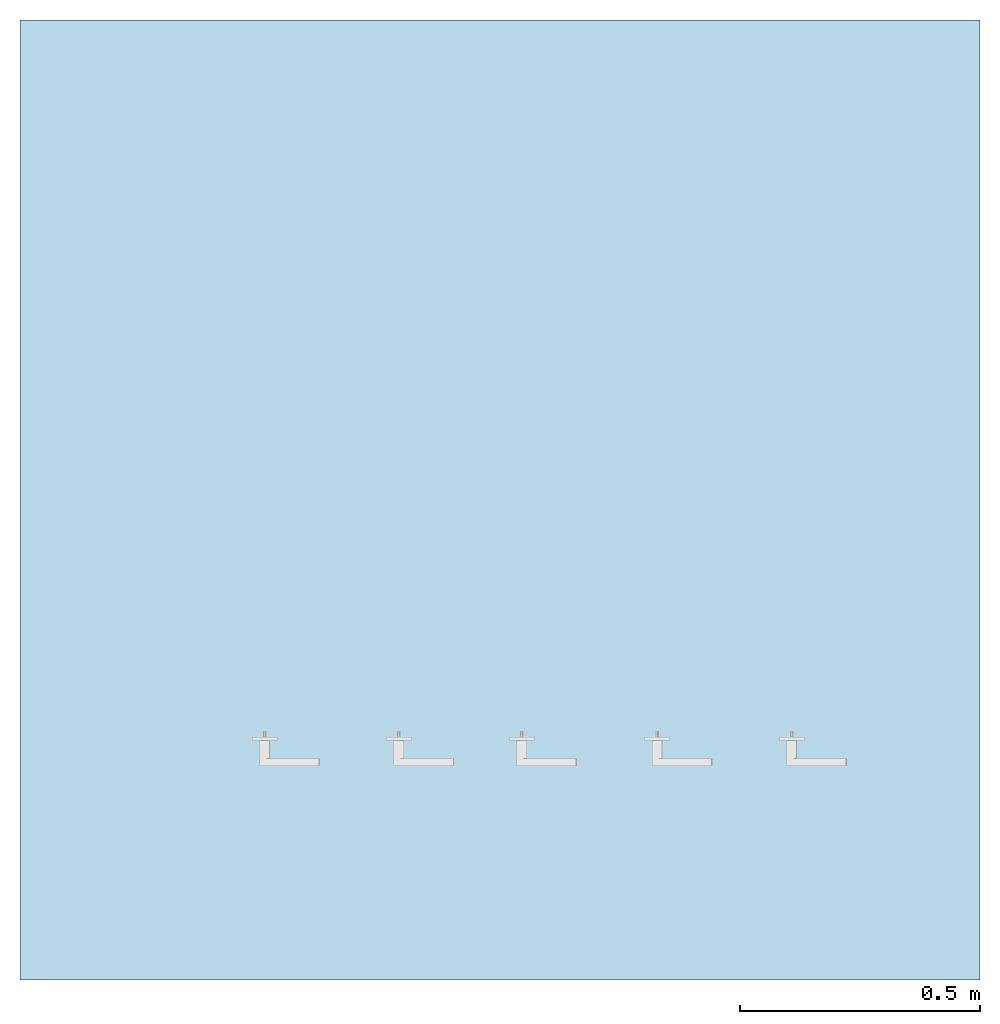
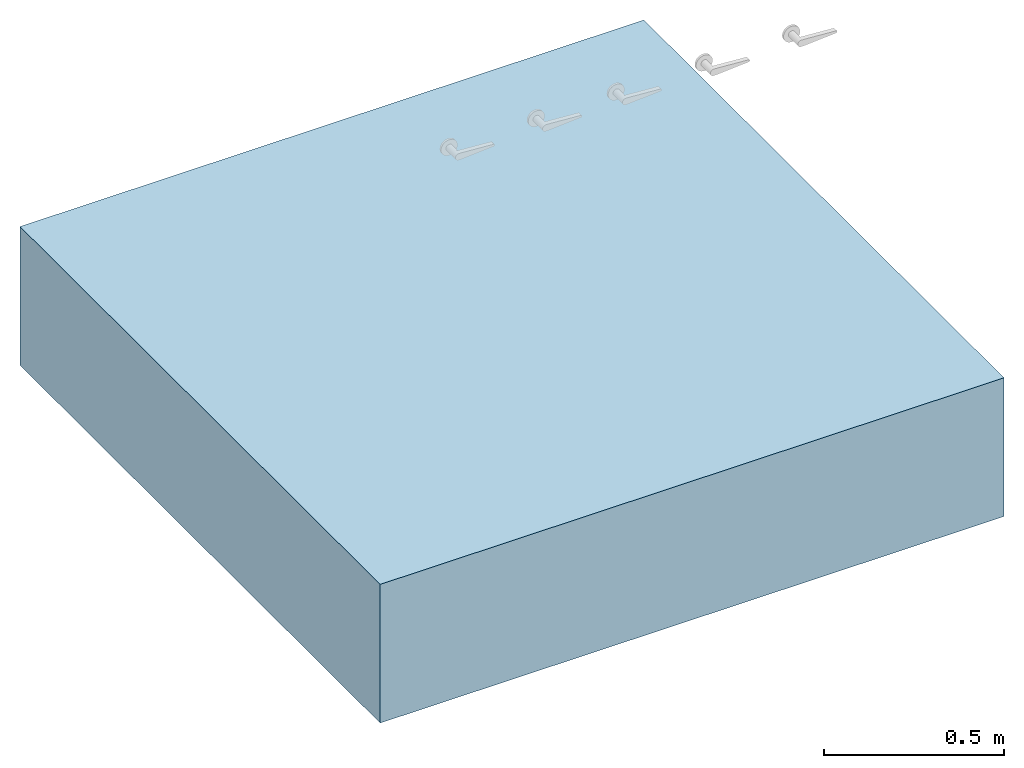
# One storey, part 1 of 2: 1 slab.
"""IFC2X3 building model written with IfcOpenShell, lengths in millimetres."""

from ifc_helpers import new_model, entity, si_unit, converted_unit, derived_unit, direction, frame, origin, origin_2d_with_axis, place, context, subcontext, project, spatial, rectangle, extrude, material, layer, layer_set, layer_usage, type_object, element, save


model = new_model("IFC2X3")

# Units and contexts
model_context = context("Model", 3, precision=0.01, world=origin(), true_north=direction((6.12303176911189e-17, 1.0)))
context_of_model = context(None, 3, precision=0.01, world=origin(), true_north=direction((6.12303176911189e-17, 1.0)))
body_context = subcontext(model_context, "Body", "Model", "MODEL_VIEW")
ifc_project = project(units=[si_unit("LENGTHUNIT", "METRE", prefix="MILLI"), si_unit("AREAUNIT", "SQUARE_METRE"), si_unit("VOLUMEUNIT", "CUBIC_METRE"), converted_unit("PLANEANGLEUNIT", "DEGREE", entity("IfcRatioMeasure", 0.0174532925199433), si_unit("PLANEANGLEUNIT", "RADIAN"), dimensions=[0, 0, 0, 0, 0, 0, 0]), si_unit("MASSUNIT", "GRAM", prefix="KILO"), derived_unit("MASSDENSITYUNIT", [(si_unit("MASSUNIT", "GRAM", prefix="KILO"), 1), (si_unit("LENGTHUNIT", "METRE"), -3)]), si_unit("TIMEUNIT", "SECOND"), si_unit("FREQUENCYUNIT", "HERTZ"), si_unit("THERMODYNAMICTEMPERATUREUNIT", "DEGREE_CELSIUS"), derived_unit("THERMALTRANSMITTANCEUNIT", [(si_unit("MASSUNIT", "GRAM", prefix="KILO"), 1), (si_unit("THERMODYNAMICTEMPERATUREUNIT", "KELVIN"), -1), (si_unit("TIMEUNIT", "SECOND"), -3)]), derived_unit("VOLUMETRICFLOWRATEUNIT", [(si_unit("LENGTHUNIT", "METRE"), 3), (si_unit("TIMEUNIT", "SECOND"), -1)]), si_unit("ELECTRICCURRENTUNIT", "AMPERE"), si_unit("ELECTRICVOLTAGEUNIT", "VOLT"), si_unit("POWERUNIT", "WATT"), si_unit("FORCEUNIT", "NEWTON", prefix="KILO"), si_unit("ILLUMINANCEUNIT", "LUX"), si_unit("LUMINOUSFLUXUNIT", "LUMEN"), si_unit("LUMINOUSINTENSITYUNIT", "CANDELA"), derived_unit("USERDEFINED", [(si_unit("MASSUNIT", "GRAM", prefix="KILO"), -1), (si_unit("LENGTHUNIT", "METRE"), -2), (si_unit("TIMEUNIT", "SECOND"), 3), (si_unit("LUMINOUSFLUXUNIT", "LUMEN"), 1)]), derived_unit("LINEARVELOCITYUNIT", [(si_unit("LENGTHUNIT", "METRE"), 1), (si_unit("TIMEUNIT", "SECOND"), -1)]), si_unit("PRESSUREUNIT", "PASCAL"), derived_unit("USERDEFINED", [(si_unit("LENGTHUNIT", "METRE"), -2), (si_unit("MASSUNIT", "GRAM", prefix="KILO"), 1), (si_unit("TIMEUNIT", "SECOND"), -2)])], contexts=[model_context, context_of_model])

# Site, building, storey
site_placement = place(None, origin())
site = spatial("IfcSite", under=ifc_project, at=site_placement, Name="Default", CompositionType="ELEMENT")
building_placement = place(site_placement, origin())
building = spatial("IfcBuilding", under=site, at=building_placement, Name="n/a", CompositionType="ELEMENT")
storey_placement = place(building_placement, origin())
storey = spatial("IfcBuildingStorey", under=building, at=storey_placement, Name="Level 0", CompositionType="ELEMENT", Elevation=0.0)

# Slab
ifc_material_1 = material(Name="Concrete, Sand/Cement Screed")
ifc_layer_1 = layer(ifc_material_1, 65.0)
ifc_material_2 = material(Name="Rigid insulation")
ifc_layer_2 = layer(ifc_material_2, 80.0)
ifc_material_3 = material(Name="Air")
ifc_layer_3 = layer(ifc_material_3, 150.0)
ifc_material_4 = material(Name="Concrete Masonry, Floor Block")
ifc_layer_4 = layer(ifc_material_4, 100.0)
ifc_material_5 = material(Name="Concrete, Precast")
ifc_layer_5 = layer(ifc_material_5, 75.0)
ifc_layer_set = layer_set([ifc_layer_1, ifc_layer_2, ifc_layer_3, ifc_layer_4, ifc_layer_5], Name="Floor:Floor-Grnd-Susp_65Scr-80Ins-100Blk-75PC")
ifc_layer_usage = layer_usage(ifc_layer_set, "AXIS3", "POSITIVE", 0.0)
slab_type = type_object("IfcSlabType", PredefinedType="FLOOR", material=ifc_layer_set)
slab_placement = place(storey_placement, origin())
element("IfcSlab", 1, at=slab_placement, inside=storey, type_object=slab_type, material=ifc_layer_usage, Name="(4)", ObjectType="Floor:Floor-Grnd-Susp_65Scr-80Ins-100Blk-75PC", PredefinedType="FLOOR", context=body_context, shape_type="SweptSolid", body=[
    extrude(rectangle(XDim=2000.0, YDim=2000.0, at=origin_2d_with_axis()), frame((2617.89542022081, 511.02004687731, 0.0), z_axis=(0.0, 0.0, -1.0), x_axis=(0.0, 1.0, 0.0)), (0.0, 0.0, 1.0), 470.0),
])

save(model, "model.ifc")
